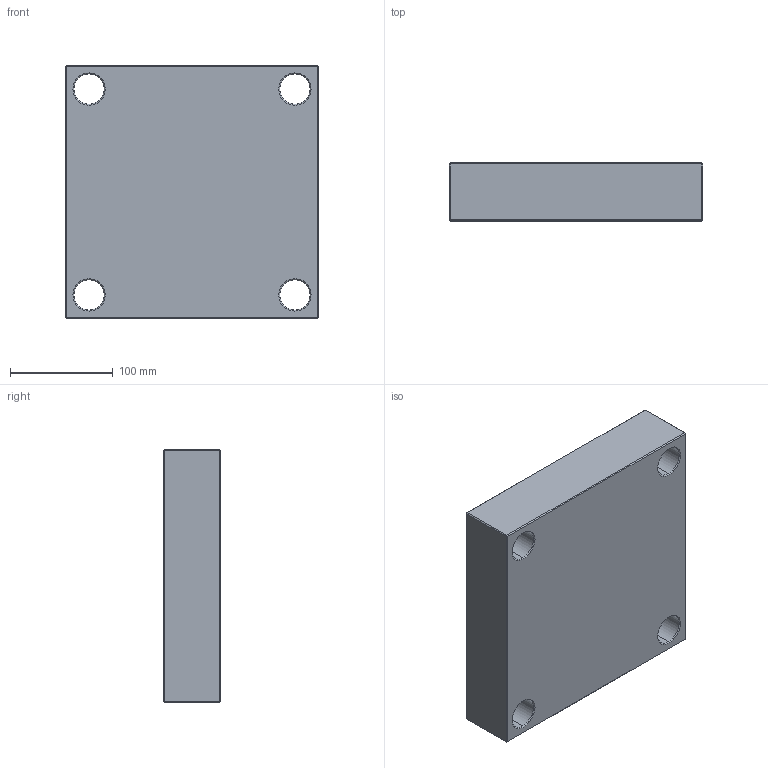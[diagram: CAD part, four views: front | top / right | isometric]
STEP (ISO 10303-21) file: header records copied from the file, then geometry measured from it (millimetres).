
FILE_DESCRIPTION (( 'STEP AP214' ), '1' );
FILE_NAME ('PCX-246x246x56.STEP', '2020-04-30T17:07:09', ( 'August' ), ( '' ), 'SwSTEP 2.0', 'SolidWorks 2018', '' );
FILE_SCHEMA (( 'AUTOMOTIVE_DESIGN' ));
Length unit declared in the file: millimetre
Products named in the file (1): PCX-246x246x56
Bounding box: 246 x 56 x 246 mm (x, y, z)
Volume: 3215839.9 mm3; surface area: 193694.8 mm2
Topology: 1 solids, 1 shells, 82 faces, 168 edges, 96 vertices
Faces by surface type: plane 34, cone 24, cylinder 24
Entity records: 2170 total; most frequent: DIRECTION 406, CARTESIAN_POINT 347, ORIENTED_EDGE 336, EDGE_CURVE 168, AXIS2_PLACEMENT_3D 155, EDGE_LOOP 98, VERTEX_POINT 96, LINE 96
